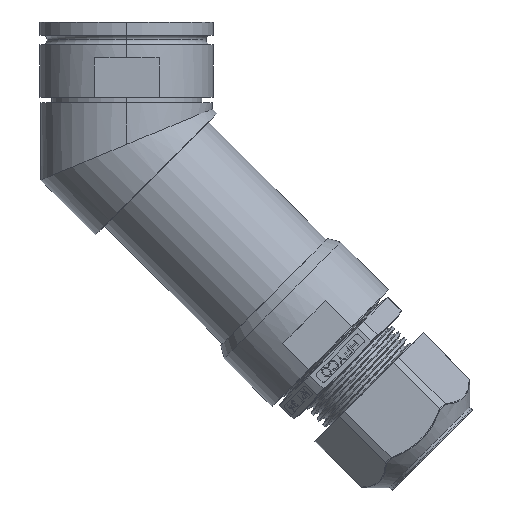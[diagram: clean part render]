
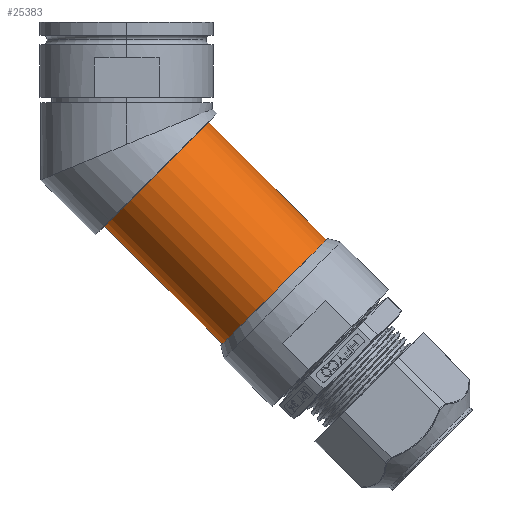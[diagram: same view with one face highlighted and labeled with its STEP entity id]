
A CAD part, left-side view. The second image highlights one B-rep face of the part: STEP entity #25383.
In plain terms, the highlighted cylindrical face has radius 17.691 mm (diameter 35.382 mm), a partial arc.
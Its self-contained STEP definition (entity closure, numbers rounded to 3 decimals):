
#136 = CARTESIAN_POINT ( 'NONE',  ( 0., 5.297, -43.51 ) ) ;
#295 = CARTESIAN_POINT ( 'NONE',  ( 0., -48.045, -46.815 ) ) ;
#4982 = CIRCLE ( 'NONE', #56015, 17.691 ) ;
#8560 = DIRECTION ( 'NONE',  ( 0., -0.707, 0.707 ) ) ;
#9155 = ORIENTED_EDGE ( 'NONE', *, *, #55546, .F. ) ;
#13831 = VERTEX_POINT ( 'NONE', #21943 ) ;
#14520 = LINE ( 'NONE', #38979, #50778 ) ;
#14823 = LINE ( 'NONE', #136, #38003 ) ;
#15158 = VERTEX_POINT ( 'NONE', #45268 ) ;
#17280 = EDGE_CURVE ( 'NONE', #15158, #13831, #4982, .T. ) ;
#19008 = VERTEX_POINT ( 'NONE', #295 ) ;
#20594 = VERTEX_POINT ( 'NONE', #61758 ) ;
#21943 = CARTESIAN_POINT ( 'NONE',  ( 0., -19.722, -18.491 ) ) ;
#25383 = ADVANCED_FACE ( 'NONE', ( #40482 ), #59022, .T. ) ;
#29396 = ORIENTED_EDGE ( 'NONE', *, *, #33898, .F. ) ;
#32987 = DIRECTION ( 'NONE',  ( 0., -0.707, -0.707 ) ) ;
#33898 = EDGE_CURVE ( 'NONE', #20594, #15158, #14823, .T. ) ;
#34247 = DIRECTION ( 'NONE',  ( 0., -0.707, 0.707 ) ) ;
#34307 = CARTESIAN_POINT ( 'NONE',  ( 0., -7.212, -31. ) ) ;
#35359 = CIRCLE ( 'NONE', #60348, 17.691 ) ;
#35755 = ORIENTED_EDGE ( 'NONE', *, *, #17280, .F. ) ;
#38003 = VECTOR ( 'NONE', #49391, 1000. ) ;
#38979 = CARTESIAN_POINT ( 'NONE',  ( 0., -19.722, -18.491 ) ) ;
#39644 = DIRECTION ( 'NONE',  ( 0., 0.707, 0.707 ) ) ;
#40482 = FACE_OUTER_BOUND ( 'NONE', #42309, .T. ) ;
#42309 = EDGE_LOOP ( 'NONE', ( #29396, #9155, #56423, #35755 ) ) ;
#45268 = CARTESIAN_POINT ( 'NONE',  ( 0., 5.297, -43.51 ) ) ;
#48670 = DIRECTION ( 'NONE',  ( 0., 0.707, 0.707 ) ) ;
#49123 = EDGE_CURVE ( 'NONE', #19008, #13831, #14520, .T. ) ;
#49391 = DIRECTION ( 'NONE',  ( 0., 0.707, 0.707 ) ) ;
#50778 = VECTOR ( 'NONE', #39644, 1000. ) ;
#55546 = EDGE_CURVE ( 'NONE', #19008, #20594, #35359, .T. ) ;
#55549 = CARTESIAN_POINT ( 'NONE',  ( 0., -35.536, -59.324 ) ) ;
#56015 = AXIS2_PLACEMENT_3D ( 'NONE', #34307, #48670, #8560 ) ;
#56423 = ORIENTED_EDGE ( 'NONE', *, *, #49123, .T. ) ;
#59022 = CYLINDRICAL_SURFACE ( 'NONE', #62886, 17.691 ) ;
#59677 = DIRECTION ( 'NONE',  ( 0., 0.707, 0.707 ) ) ;
#60348 = AXIS2_PLACEMENT_3D ( 'NONE', #55549, #32987, #62361 ) ;
#61758 = CARTESIAN_POINT ( 'NONE',  ( 0., -23.026, -71.834 ) ) ;
#62361 = DIRECTION ( 'NONE',  ( 0., 0.707, -0.707 ) ) ;
#62886 = AXIS2_PLACEMENT_3D ( 'NONE', #64244, #59677, #34247 ) ;
#64244 = CARTESIAN_POINT ( 'NONE',  ( 0., -7.212, -31. ) ) ;
